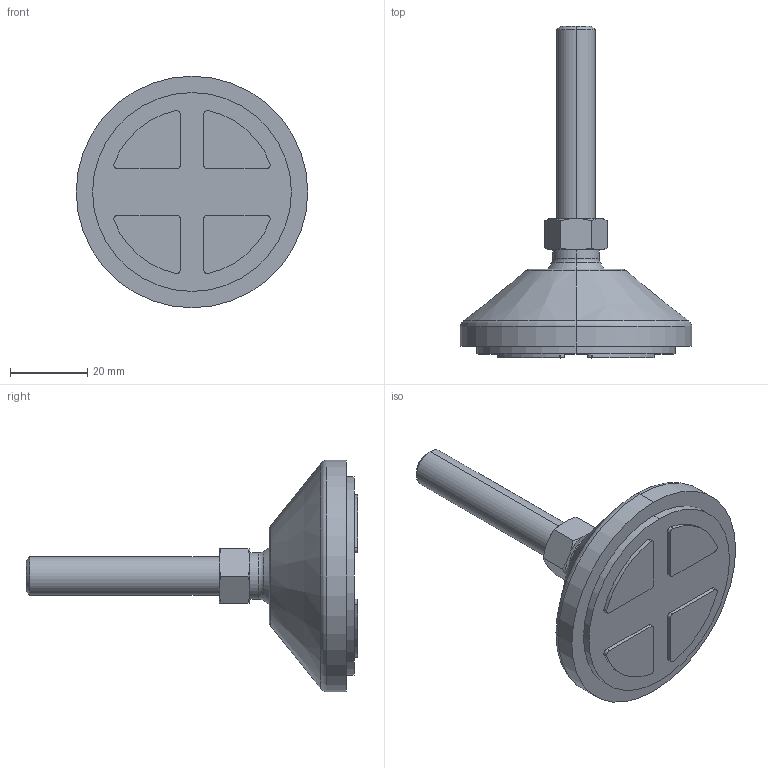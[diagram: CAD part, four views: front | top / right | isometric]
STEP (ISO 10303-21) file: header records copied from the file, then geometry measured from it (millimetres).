
FILE_DESCRIPTION (( 'STEP AP214' ), '1' );
FILE_NAME ('1.5021 S鳵t鐱alka D60 M10.STEP', '2025-09-17T08:18:21', ( '' ), ( '' ), 'SwSTEP 2.0', 'SolidWorks 2025', '' );
FILE_SCHEMA (( 'AUTOMOTIVE_DESIGN' ));
Length unit declared in the file: millimetre
Products named in the file (1): 1.5021 Säätöjalka D60 M10
Bounding box: 60 x 86 x 60 mm (x, y, z)
Volume: 48718.8 mm3; surface area: 10251.5 mm2
Topology: 1 solids, 1 shells, 79 faces, 190 edges, 122 vertices
Faces by surface type: cylinder 30, plane 25, cone 18, torus 6
Entity records: 3191 total; most frequent: CARTESIAN_POINT 496, DIRECTION 414, ORIENTED_EDGE 380, EDGE_CURVE 190, AXIS2_PLACEMENT_3D 168, VERTEX_POINT 122, EDGE_LOOP 88, CIRCLE 88
